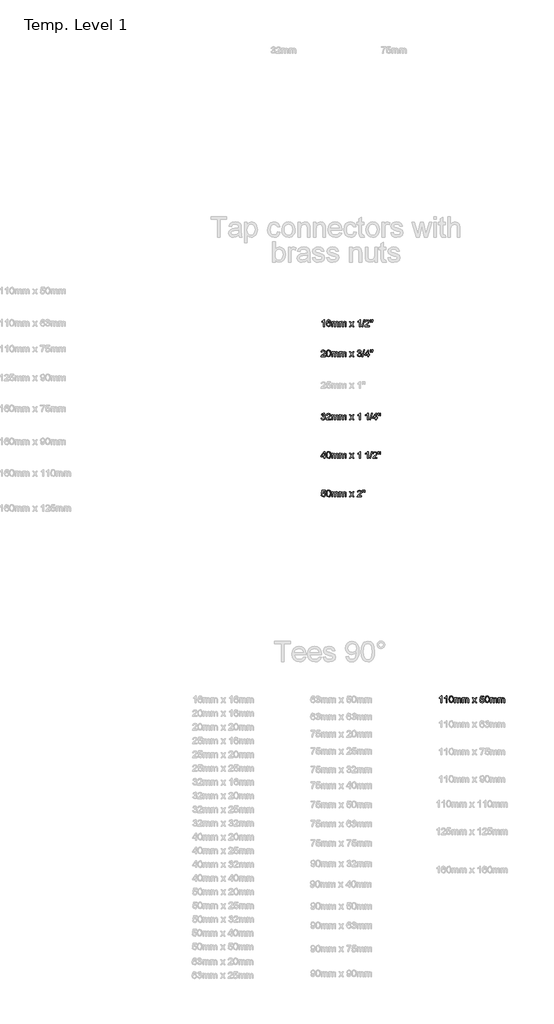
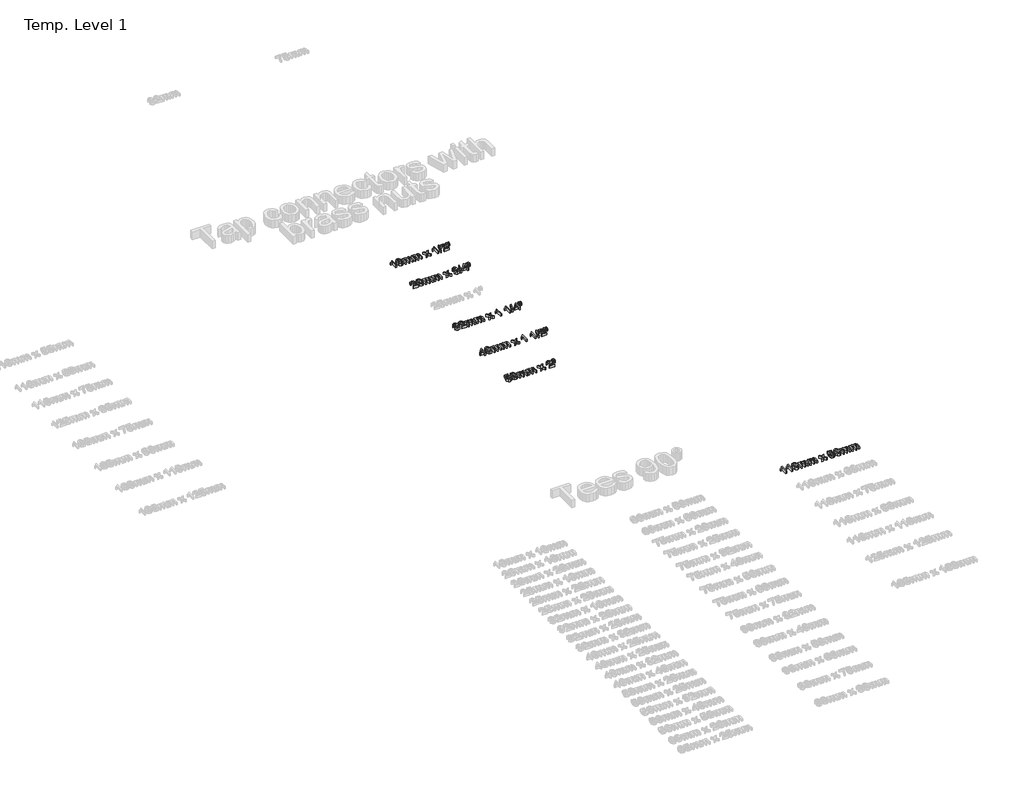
# One storey, part 49 of 62: 6 proxies.
"""IFC4 building model written with IfcOpenShell, lengths in millimetres."""

from ifc_helpers import new_model, si_unit, origin, origin_with_axes, place, context, project, spatial, polyline, outline, extrude, element, save

model = new_model("IFC4")

# Units and contexts
model_context = context("Model", 3, world=origin())
ifc_project = project(units=[si_unit("LENGTHUNIT", "METRE", prefix="MILLI")], contexts=[model_context])

# Site, building, storey
site = spatial("IfcSite", under=ifc_project)
building = spatial("IfcBuilding", under=site)
storey = spatial("IfcBuildingStorey", under=building, Name="Temp. Level 1", Elevation=0.0)

# Proxies
placement = place(None, origin())
element("IfcBuildingElementProxy", 1, Name="50mm Arial", ObjectType="50mm Arial", at=placement, inside=storey, context=model_context, shape_type="SweptSolid", body=[
    extrude(outline(polyline([(28231.5860907, -7369.5564984), (28225.4322446, -7369.5564984), (28225.4322446, -7331.1911138), (28219.6029177, -7335.3437581), (28213.1245523, -7338.4507292), (28213.1245523, -7332.6334215), (28222.144985, -7326.87621), (28227.6197446, -7320.3257292), (28231.5860907, -7320.3257292), (28231.5860907, -7369.5564984)])), origin_with_axes(), (0.0, 0.0, 1.0), 15.0),
    extrude(outline(polyline([(28269.2783984, -7369.5564984), (28263.1245523, -7369.5564984), (28263.1245523, -7331.1911138), (28257.2952253, -7335.3437581), (28250.81686, -7338.4507292), (28250.81686, -7332.6334215), (28259.8372927, -7326.87621), (28265.3120523, -7320.3257292), (28269.2783984, -7320.3257292), (28269.2783984, -7369.5564984)])), origin_with_axes(), (0.0, 0.0, 1.0), 15.0),
    extrude(outline(polyline([(28283.893783, -7345.3377484), (28285.7026773, -7331.173085), (28291.0752734, -7323.0060177), (28300.0476292, -7320.3257292), (28307.2351292, -7321.9122677), (28312.1990715, -7326.485585), (28315.0836869, -7333.7692388), (28316.2014753, -7345.3377484), (28314.41061, -7359.4423158), (28309.0560427, -7367.6274119), (28300.0476292, -7370.3257292), (28288.7976292, -7365.6382292), (28285.1197446, -7357.3119071), (28283.893783, -7345.3377484)]), holes=[polyline([(28290.0476292, -7345.3257292), (28292.9322446, -7360.6081811), (28300.0476292, -7364.1718831), (28307.1630138, -7360.5961619), (28310.0476292, -7345.3257292), (28307.2591677, -7330.2175561), (28299.9755138, -7326.4795754), (28293.0283984, -7329.7728446), (28290.0476292, -7345.3257292)])]), origin_with_axes(), (0.0, 0.0, 1.0), 15.0),
    extrude(outline(polyline([(28323.1245523, -7369.5564984), (28323.1245523, -7333.4026523), (28329.2783984, -7333.4026523), (28329.2783984, -7339.3521715), (28333.5091677, -7334.4783734), (28339.5308023, -7332.6334215), (28345.6966677, -7334.5144311), (28349.0860907, -7339.7848638), (28353.8877734, -7334.4212821), (28359.9514753, -7332.6334215), (28367.9983503, -7335.6081811), (28370.81686, -7344.7728446), (28370.81686, -7369.5564984), (28364.6630138, -7369.5564984), (28364.6630138, -7347.4170754), (28364.0921003, -7342.2788542), (28362.0247927, -7339.7488061), (28358.5091677, -7338.7872677), (28352.457485, -7341.25121), (28350.0476292, -7349.1478446), (28350.0476292, -7369.5564984), (28343.893783, -7369.5564984), (28343.893783, -7346.7319792), (28342.4695042, -7340.7704408), (28337.800033, -7338.7872677), (28333.2447446, -7340.1093831), (28330.2158984, -7343.9795754), (28329.2783984, -7351.3233254), (28329.2783984, -7369.5564984), (28323.1245523, -7369.5564984)])), origin_with_axes(), (0.0, 0.0, 1.0), 15.0),
    extrude(outline(polyline([(28380.0476292, -7369.5564984), (28380.0476292, -7333.4026523), (28386.2014753, -7333.4026523), (28386.2014753, -7339.3521715), (28390.4322446, -7334.4783734), (28396.4538792, -7332.6334215), (28402.6197446, -7334.5144311), (28406.0091677, -7339.7848638), (28410.8108503, -7334.4212821), (28416.8745523, -7332.6334215), (28424.9214273, -7335.6081811), (28427.7399369, -7344.7728446), (28427.7399369, -7369.5564984), (28421.5860907, -7369.5564984), (28421.5860907, -7347.4170754), (28421.0151773, -7342.2788542), (28418.9478696, -7339.7488061), (28415.4322446, -7338.7872677), (28409.3805619, -7341.25121), (28406.9707061, -7349.1478446), (28406.9707061, -7369.5564984), (28400.81686, -7369.5564984), (28400.81686, -7346.7319792), (28399.3925811, -7340.7704408), (28394.72311, -7338.7872677), (28390.1678215, -7340.1093831), (28387.1389753, -7343.9795754), (28386.2014753, -7351.3233254), (28386.2014753, -7369.5564984), (28380.0476292, -7369.5564984)])), origin_with_axes(), (0.0, 0.0, 1.0), 15.0),
    extrude(outline(polyline([(28452.3553215, -7369.5564984), (28465.50436, -7351.3834215), (28453.1245523, -7333.4026523), (28460.5283984, -7333.4026523), (28466.5019561, -7342.0564984), (28469.2904177, -7346.1430369), (28471.706283, -7342.8016908), (28478.5091677, -7333.4026523), (28485.9130138, -7333.4026523), (28472.9082061, -7351.3834215), (28485.4322446, -7369.5564984), (28478.0283984, -7369.5564984), (28470.4923407, -7358.6310177), (28469.1101292, -7356.6358254), (28459.7591677, -7369.5564984), (28452.3553215, -7369.5564984)])), origin_with_axes(), (0.0, 0.0, 1.0), 15.0),
    extrude(outline(polyline([(28508.5091677, -7356.4795754), (28514.6630138, -7355.7103446), (28517.7639753, -7362.0504888), (28524.1942638, -7364.1718831), (28531.91061, -7361.2211619), (28534.6630138, -7353.3906331), (28532.0848888, -7346.0829408), (28524.2904177, -7343.4026523), (28518.8877734, -7344.4723638), (28515.4322446, -7347.2488061), (28509.2783984, -7346.4795754), (28514.6630138, -7321.09496), (28538.5091677, -7321.09496), (28538.5091677, -7327.2488061), (28519.6389753, -7327.2488061), (28517.0067638, -7340.8064984), (28526.0091677, -7337.2488061), (28536.5320042, -7341.6598638), (28540.81686, -7353.0060177), (28536.9586869, -7364.4242869), (28531.4178215, -7368.8503686), (28524.1702253, -7370.3257292), (28513.3108503, -7366.5336619), (28508.5091677, -7356.4795754)])), origin_with_axes(), (0.0, 0.0, 1.0), 15.0),
    extrude(outline(polyline([(28546.2014753, -7345.3377484), (28548.0103696, -7331.173085), (28553.3829657, -7323.0060177), (28562.3553215, -7320.3257292), (28569.5428215, -7321.9122677), (28574.5067638, -7326.485585), (28577.3913792, -7333.7692388), (28578.5091677, -7345.3377484), (28576.7183023, -7359.4423158), (28571.363735, -7367.6274119), (28562.3553215, -7370.3257292), (28551.1053215, -7365.6382292), (28547.4274369, -7357.3119071), (28546.2014753, -7345.3377484)]), holes=[polyline([(28552.3553215, -7345.3257292), (28555.2399369, -7360.6081811), (28562.3553215, -7364.1718831), (28569.4707061, -7360.5961619), (28572.3553215, -7345.3257292), (28569.56686, -7330.2175561), (28562.2832061, -7326.4795754), (28555.3360907, -7329.7728446), (28552.3553215, -7345.3257292)])]), origin_with_axes(), (0.0, 0.0, 1.0), 15.0),
    extrude(outline(polyline([(28585.4322446, -7369.5564984), (28585.4322446, -7333.4026523), (28591.5860907, -7333.4026523), (28591.5860907, -7339.3521715), (28595.81686, -7334.4783734), (28601.8384946, -7332.6334215), (28608.00436, -7334.5144311), (28611.393783, -7339.7848638), (28616.1954657, -7334.4212821), (28622.2591677, -7332.6334215), (28630.3060427, -7335.6081811), (28633.1245523, -7344.7728446), (28633.1245523, -7369.5564984), (28626.9707061, -7369.5564984), (28626.9707061, -7347.4170754), (28626.3997927, -7342.2788542), (28624.332485, -7339.7488061), (28620.81686, -7338.7872677), (28614.7651773, -7341.25121), (28612.3553215, -7349.1478446), (28612.3553215, -7369.5564984), (28606.2014753, -7369.5564984), (28606.2014753, -7346.7319792), (28604.7771965, -7340.7704408), (28600.1077253, -7338.7872677), (28595.5524369, -7340.1093831), (28592.5235907, -7343.9795754), (28591.5860907, -7351.3233254), (28591.5860907, -7369.5564984), (28585.4322446, -7369.5564984)])), origin_with_axes(), (0.0, 0.0, 1.0), 15.0),
    extrude(outline(polyline([(28642.3553215, -7369.5564984), (28642.3553215, -7333.4026523), (28648.5091677, -7333.4026523), (28648.5091677, -7339.3521715), (28652.7399369, -7334.4783734), (28658.7615715, -7332.6334215), (28664.9274369, -7334.5144311), (28668.31686, -7339.7848638), (28673.1185427, -7334.4212821), (28679.1822446, -7332.6334215), (28687.2291196, -7335.6081811), (28690.0476292, -7344.7728446), (28690.0476292, -7369.5564984), (28683.893783, -7369.5564984), (28683.893783, -7347.4170754), (28683.3228696, -7342.2788542), (28681.2555619, -7339.7488061), (28677.7399369, -7338.7872677), (28671.6882542, -7341.25121), (28669.2783984, -7349.1478446), (28669.2783984, -7369.5564984), (28663.1245523, -7369.5564984), (28663.1245523, -7346.7319792), (28661.7002734, -7340.7704408), (28657.0308023, -7338.7872677), (28652.4755138, -7340.1093831), (28649.4466677, -7343.9795754), (28648.5091677, -7351.3233254), (28648.5091677, -7369.5564984), (28642.3553215, -7369.5564984)])), origin_with_axes(), (0.0, 0.0, 1.0), 15.0),
])
element("IfcBuildingElementProxy", 2, Name="50mm Arial", ObjectType="50mm Arial", at=placement, inside=storey, context=model_context, shape_type="SweptSolid", body=[
    extrude(outline(polyline([(27375.1698144, -4630.198517), (27369.0159683, -4630.198517), (27369.0159683, -4591.8331324), (27363.1866413, -4595.9857766), (27356.708276, -4599.0927478), (27356.708276, -4593.2754401), (27365.7287086, -4587.5182286), (27371.2034683, -4580.9677478), (27375.1698144, -4580.9677478), (27375.1698144, -4630.198517)])), origin_with_axes(), (0.0, 0.0, 1.0), 15.0),
    extrude(outline(polyline([(27421.3236606, -4594.0446709), (27415.1698144, -4594.8139016), (27412.8380836, -4589.6816901), (27406.6722183, -4587.1215939), (27401.1193336, -4588.6119786), (27396.9186125, -4594.2069305), (27395.1698144, -4605.1744786), (27400.5964971, -4600.2646228), (27407.3212567, -4598.6600555), (27417.7779875, -4603.0470747), (27422.0928913, -4614.3812093), (27420.0616413, -4622.8727959), (27414.472699, -4628.8824112), (27406.4077952, -4630.9677478), (27393.8657279, -4625.4389016), (27390.2284082, -4618.1191901), (27389.0159683, -4607.2177478), (27390.3621221, -4594.9611372), (27394.4005836, -4586.5807286), (27399.9144058, -4582.370993), (27407.0568336, -4580.9677478), (27416.7803913, -4584.4413055), (27421.3236606, -4594.0446709)]), holes=[polyline([(27395.1698144, -4614.2850555), (27396.5940933, -4619.6155843), (27400.380151, -4623.4857766), (27405.927026, -4624.8139016), (27413.1806317, -4622.0614978), (27415.9390452, -4614.5855362), (27413.2166894, -4607.4280843), (27405.6746221, -4604.8139016), (27398.2287086, -4607.4280843), (27395.1698144, -4614.2850555)])]), origin_with_axes(), (0.0, 0.0, 1.0), 15.0),
    extrude(outline(polyline([(27429.0159683, -4630.198517), (27429.0159683, -4594.0446709), (27435.1698144, -4594.0446709), (27435.1698144, -4599.9941901), (27439.4005836, -4595.120392), (27445.4222183, -4593.2754401), (27451.5880836, -4595.1564497), (27454.9775067, -4600.4268824), (27459.7791894, -4595.0633007), (27465.8428913, -4593.2754401), (27473.8897663, -4596.2501997), (27476.708276, -4605.4148632), (27476.708276, -4630.198517), (27470.5544298, -4630.198517), (27470.5544298, -4608.0590939), (27469.9835163, -4602.9208728), (27467.9162086, -4600.3908247), (27464.4005836, -4599.4292862), (27458.348901, -4601.8932286), (27455.9390452, -4609.7898632), (27455.9390452, -4630.198517), (27449.785199, -4630.198517), (27449.785199, -4607.3739978), (27448.3609202, -4601.4124593), (27443.691449, -4599.4292862), (27439.1361606, -4600.7514016), (27436.1073144, -4604.6215939), (27435.1698144, -4611.9653439), (27435.1698144, -4630.198517), (27429.0159683, -4630.198517)])), origin_with_axes(), (0.0, 0.0, 1.0), 15.0),
    extrude(outline(polyline([(27485.9390452, -4630.198517), (27485.9390452, -4594.0446709), (27492.0928913, -4594.0446709), (27492.0928913, -4599.9941901), (27496.3236606, -4595.120392), (27502.3452952, -4593.2754401), (27508.5111606, -4595.1564497), (27511.9005836, -4600.4268824), (27516.7022663, -4595.0633007), (27522.7659683, -4593.2754401), (27530.8128433, -4596.2501997), (27533.6313529, -4605.4148632), (27533.6313529, -4630.198517), (27527.4775067, -4630.198517), (27527.4775067, -4608.0590939), (27526.9065933, -4602.9208728), (27524.8392856, -4600.3908247), (27521.3236606, -4599.4292862), (27515.2719779, -4601.8932286), (27512.8621221, -4609.7898632), (27512.8621221, -4630.198517), (27506.708276, -4630.198517), (27506.708276, -4607.3739978), (27505.2839971, -4601.4124593), (27500.614526, -4599.4292862), (27496.0592375, -4600.7514016), (27493.0303913, -4604.6215939), (27492.0928913, -4611.9653439), (27492.0928913, -4630.198517), (27485.9390452, -4630.198517)])), origin_with_axes(), (0.0, 0.0, 1.0), 15.0),
    extrude(outline(polyline([(27558.2467375, -4630.198517), (27571.395776, -4612.0254401), (27559.0159683, -4594.0446709), (27566.4198144, -4594.0446709), (27572.3933721, -4602.698517), (27575.1818336, -4606.7850555), (27577.597699, -4603.4437093), (27584.4005836, -4594.0446709), (27591.8044298, -4594.0446709), (27578.7996221, -4612.0254401), (27591.3236606, -4630.198517), (27583.9198144, -4630.198517), (27576.3837567, -4619.2730362), (27575.0015452, -4617.2778439), (27565.6505836, -4630.198517), (27558.2467375, -4630.198517)])), origin_with_axes(), (0.0, 0.0, 1.0), 15.0),
    extrude(outline(polyline([(27637.4775067, -4630.198517), (27631.3236606, -4630.198517), (27631.3236606, -4591.8331324), (27625.4943336, -4595.9857766), (27619.0159683, -4599.0927478), (27619.0159683, -4593.2754401), (27628.036401, -4587.5182286), (27633.5111606, -4580.9677478), (27637.4775067, -4580.9677478), (27637.4775067, -4630.198517)])), origin_with_axes(), (0.0, 0.0, 1.0), 15.0),
    extrude(outline(polyline([(27649.0159683, -4630.198517), (27662.8621221, -4580.9677478), (27668.4150067, -4580.9677478), (27654.5688529, -4630.198517), (27649.0159683, -4630.198517)])), origin_with_axes(), (0.0, 0.0, 1.0), 15.0),
    extrude(outline(polyline([(27702.8621221, -4624.0446709), (27702.8621221, -4630.198517), (27670.5544298, -4630.198517), (27671.2154875, -4625.9557286), (27674.9534683, -4619.4232766), (27682.6577952, -4612.2898632), (27693.2827952, -4602.0374593), (27695.9390452, -4595.0663055), (27693.4330356, -4589.4232766), (27686.8885644, -4587.1215939), (27680.067651, -4589.3691901), (27677.4775067, -4595.5831324), (27671.3236606, -4594.8139016), (27676.0412086, -4584.5134209), (27687.020776, -4580.9677478), (27698.036401, -4584.9100555), (27702.0928913, -4594.6937093), (27700.9991413, -4600.5290459), (27697.363324, -4606.5626997), (27688.5472183, -4614.9941901), (27681.4678913, -4620.9136612), (27678.691449, -4624.0446709), (27702.8621221, -4624.0446709)])), origin_with_axes(), (0.0, 0.0, 1.0), 15.0),
    extrude(outline(polyline([(27722.7900067, -4598.6600555), (27721.3236606, -4589.1528439), (27721.3236606, -4580.9677478), (27727.4775067, -4580.9677478), (27727.4775067, -4589.1528439), (27726.035199, -4598.6600555), (27722.7900067, -4598.6600555)])), origin_with_axes(), (0.0, 0.0, 1.0), 15.0),
    extrude(outline(polyline([(27710.5183721, -4598.6600555), (27709.0159683, -4589.1528439), (27709.0159683, -4580.9677478), (27715.1698144, -4580.9677478), (27715.1698144, -4589.1528439), (27713.8236606, -4598.6600555), (27710.5183721, -4598.6600555)])), origin_with_axes(), (0.0, 0.0, 1.0), 15.0),
])
element("IfcBuildingElementProxy", 3, Name="50mm Arial", ObjectType="50mm Arial", at=placement, inside=storey, context=model_context, shape_type="SweptSolid", body=[
    extrude(outline(polyline([(27383.6313529, -4844.0446709), (27383.6313529, -4850.198517), (27351.3236606, -4850.198517), (27351.9847183, -4845.9557286), (27355.722699, -4839.4232766), (27363.427026, -4832.2898632), (27374.052026, -4822.0374593), (27376.708276, -4815.0663055), (27374.2022663, -4809.4232766), (27367.6577952, -4807.1215939), (27360.8368817, -4809.3691901), (27358.2467375, -4815.5831324), (27352.0928913, -4814.8139016), (27356.8104394, -4804.5134209), (27367.7900067, -4800.9677478), (27378.8056317, -4804.9100555), (27382.8621221, -4814.6937093), (27381.7683721, -4820.5290459), (27378.1325548, -4826.5626997), (27369.316449, -4834.9941901), (27362.2371221, -4840.9136612), (27359.4606798, -4844.0446709), (27383.6313529, -4844.0446709)])), origin_with_axes(), (0.0, 0.0, 1.0), 15.0),
    extrude(outline(polyline([(27389.785199, -4825.979767), (27391.5940933, -4811.8151036), (27396.9666894, -4803.6480362), (27405.9390452, -4800.9677478), (27413.1265452, -4802.5542862), (27418.0904875, -4807.1276036), (27420.9751029, -4814.4112574), (27422.0928913, -4825.979767), (27420.302026, -4840.0843343), (27414.9474586, -4848.2694305), (27405.9390452, -4850.9677478), (27394.6890452, -4846.2802478), (27391.0111606, -4837.9539257), (27389.785199, -4825.979767)]), holes=[polyline([(27395.9390452, -4825.9677478), (27398.8236606, -4841.2501997), (27405.9390452, -4844.8139016), (27413.0544298, -4841.2381805), (27415.9390452, -4825.9677478), (27413.1505836, -4810.8595747), (27405.8669298, -4807.1215939), (27398.9198144, -4810.4148632), (27395.9390452, -4825.9677478)])]), origin_with_axes(), (0.0, 0.0, 1.0), 15.0),
    extrude(outline(polyline([(27429.0159683, -4850.198517), (27429.0159683, -4814.0446709), (27435.1698144, -4814.0446709), (27435.1698144, -4819.9941901), (27439.4005836, -4815.120392), (27445.4222183, -4813.2754401), (27451.5880836, -4815.1564497), (27454.9775067, -4820.4268824), (27459.7791894, -4815.0633007), (27465.8428913, -4813.2754401), (27473.8897663, -4816.2501997), (27476.708276, -4825.4148632), (27476.708276, -4850.198517), (27470.5544298, -4850.198517), (27470.5544298, -4828.0590939), (27469.9835163, -4822.9208728), (27467.9162086, -4820.3908247), (27464.4005836, -4819.4292862), (27458.348901, -4821.8932286), (27455.9390452, -4829.7898632), (27455.9390452, -4850.198517), (27449.785199, -4850.198517), (27449.785199, -4827.3739978), (27448.3609202, -4821.4124593), (27443.691449, -4819.4292862), (27439.1361606, -4820.7514016), (27436.1073144, -4824.6215939), (27435.1698144, -4831.9653439), (27435.1698144, -4850.198517), (27429.0159683, -4850.198517)])), origin_with_axes(), (0.0, 0.0, 1.0), 15.0),
    extrude(outline(polyline([(27485.9390452, -4850.198517), (27485.9390452, -4814.0446709), (27492.0928913, -4814.0446709), (27492.0928913, -4819.9941901), (27496.3236606, -4815.120392), (27502.3452952, -4813.2754401), (27508.5111606, -4815.1564497), (27511.9005836, -4820.4268824), (27516.7022663, -4815.0633007), (27522.7659683, -4813.2754401), (27530.8128433, -4816.2501997), (27533.6313529, -4825.4148632), (27533.6313529, -4850.198517), (27527.4775067, -4850.198517), (27527.4775067, -4828.0590939), (27526.9065933, -4822.9208728), (27524.8392856, -4820.3908247), (27521.3236606, -4819.4292862), (27515.2719779, -4821.8932286), (27512.8621221, -4829.7898632), (27512.8621221, -4850.198517), (27506.708276, -4850.198517), (27506.708276, -4827.3739978), (27505.2839971, -4821.4124593), (27500.614526, -4819.4292862), (27496.0592375, -4820.7514016), (27493.0303913, -4824.6215939), (27492.0928913, -4831.9653439), (27492.0928913, -4850.198517), (27485.9390452, -4850.198517)])), origin_with_axes(), (0.0, 0.0, 1.0), 15.0),
    extrude(outline(polyline([(27558.2467375, -4850.198517), (27571.395776, -4832.0254401), (27559.0159683, -4814.0446709), (27566.4198144, -4814.0446709), (27572.3933721, -4822.698517), (27575.1818336, -4826.7850555), (27577.597699, -4823.4437093), (27584.4005836, -4814.0446709), (27591.8044298, -4814.0446709), (27578.7996221, -4832.0254401), (27591.3236606, -4850.198517), (27583.9198144, -4850.198517), (27576.3837567, -4839.2730362), (27575.0015452, -4837.2778439), (27565.6505836, -4850.198517), (27558.2467375, -4850.198517)])), origin_with_axes(), (0.0, 0.0, 1.0), 15.0),
    extrude(outline(polyline([(27614.4005836, -4837.1215939), (27620.5544298, -4836.3523632), (27623.9498625, -4842.8307286), (27630.302026, -4844.8139016), (27637.7779875, -4842.0855362), (27640.5544298, -4835.3307286), (27637.802026, -4828.9665459), (27630.8068336, -4826.448517), (27626.4919298, -4827.1215939), (27627.177026, -4820.9677478), (27635.145776, -4819.2730362), (27638.2467375, -4813.8403439), (27635.9991413, -4809.026642), (27630.2058721, -4807.1215939), (27624.3404875, -4809.0446709), (27621.3236606, -4814.8139016), (27615.1698144, -4814.0446709), (27620.2058721, -4804.3932286), (27629.989526, -4800.9677478), (27637.411401, -4802.6564497), (27642.6037086, -4807.2718343), (27644.4005836, -4813.479767), (27642.6938529, -4819.1528439), (27637.645776, -4823.2273632), (27644.3525067, -4827.4340939), (27646.708276, -4835.4389016), (27641.9967375, -4846.448517), (27630.0856798, -4850.9677478), (27619.2924106, -4847.1095747), (27614.4005836, -4837.1215939)])), origin_with_axes(), (0.0, 0.0, 1.0), 15.0),
    extrude(outline(polyline([(27649.0159683, -4850.198517), (27662.8621221, -4800.9677478), (27668.4150067, -4800.9677478), (27654.5688529, -4850.198517), (27649.0159683, -4850.198517)])), origin_with_axes(), (0.0, 0.0, 1.0), 15.0),
    extrude(outline(polyline([(27691.3236606, -4850.198517), (27691.3236606, -4838.6600555), (27669.0159683, -4838.6600555), (27669.0159683, -4832.5062093), (27692.8621221, -4801.7369786), (27697.4775067, -4801.7369786), (27697.4775067, -4832.5062093), (27703.6313529, -4832.5062093), (27703.6313529, -4838.6600555), (27697.4775067, -4838.6600555), (27697.4775067, -4850.198517), (27691.3236606, -4850.198517)]), holes=[polyline([(27691.3236606, -4832.5062093), (27691.3236606, -4813.4917862), (27676.5880836, -4832.5062093), (27691.3236606, -4832.5062093)])]), origin_with_axes(), (0.0, 0.0, 1.0), 15.0),
    extrude(outline(polyline([(27722.7900067, -4818.6600555), (27721.3236606, -4809.1528439), (27721.3236606, -4800.9677478), (27727.4775067, -4800.9677478), (27727.4775067, -4809.1528439), (27726.035199, -4818.6600555), (27722.7900067, -4818.6600555)])), origin_with_axes(), (0.0, 0.0, 1.0), 15.0),
    extrude(outline(polyline([(27710.5183721, -4818.6600555), (27709.0159683, -4809.1528439), (27709.0159683, -4800.9677478), (27715.1698144, -4800.9677478), (27715.1698144, -4809.1528439), (27713.8236606, -4818.6600555), (27710.5183721, -4818.6600555)])), origin_with_axes(), (0.0, 0.0, 1.0), 15.0),
])
element("IfcBuildingElementProxy", 4, Name="50mm Arial", ObjectType="50mm Arial", at=placement, inside=storey, context=model_context, shape_type="SweptSolid", body=[
    extrude(outline(polyline([(27352.0928913, -5297.1215939), (27358.2467375, -5296.3523632), (27361.6421702, -5302.8307286), (27367.9943336, -5304.8139016), (27375.4702952, -5302.0855362), (27378.2467375, -5295.3307286), (27375.4943336, -5288.9665459), (27368.4991413, -5286.448517), (27364.1842375, -5287.1215939), (27364.8693336, -5280.9677478), (27372.8380836, -5279.2730362), (27375.9390452, -5273.8403439), (27373.691449, -5269.026642), (27367.8981798, -5267.1215939), (27362.0327952, -5269.0446709), (27359.0159683, -5274.8139016), (27352.8621221, -5274.0446709), (27357.8981798, -5264.3932286), (27367.6818336, -5260.9677478), (27375.1037086, -5262.6564497), (27380.2960163, -5267.2718343), (27382.0928913, -5273.479767), (27380.3861606, -5279.1528439), (27375.3380836, -5283.2273632), (27382.0448144, -5287.4340939), (27384.4005836, -5295.4389016), (27379.6890452, -5306.448517), (27367.7779875, -5310.9677478), (27356.9847183, -5307.1095747), (27352.0928913, -5297.1215939)])), origin_with_axes(), (0.0, 0.0, 1.0), 15.0),
    extrude(outline(polyline([(27421.3236606, -5304.0446709), (27421.3236606, -5310.198517), (27389.0159683, -5310.198517), (27389.677026, -5305.9557286), (27393.4150067, -5299.4232766), (27401.1193336, -5292.2898632), (27411.7443336, -5282.0374593), (27414.4005836, -5275.0663055), (27411.894574, -5269.4232766), (27405.3501029, -5267.1215939), (27398.5291894, -5269.3691901), (27395.9390452, -5275.5831324), (27389.785199, -5274.8139016), (27394.5027471, -5264.5134209), (27405.4823144, -5260.9677478), (27416.4979394, -5264.9100555), (27420.5544298, -5274.6937093), (27419.4606798, -5280.5290459), (27415.8248625, -5286.5626997), (27407.0087567, -5294.9941901), (27399.9294298, -5300.9136612), (27397.1529875, -5304.0446709), (27421.3236606, -5304.0446709)])), origin_with_axes(), (0.0, 0.0, 1.0), 15.0),
    extrude(outline(polyline([(27429.0159683, -5310.198517), (27429.0159683, -5274.0446709), (27435.1698144, -5274.0446709), (27435.1698144, -5279.9941901), (27439.4005836, -5275.120392), (27445.4222183, -5273.2754401), (27451.5880836, -5275.1564497), (27454.9775067, -5280.4268824), (27459.7791894, -5275.0633007), (27465.8428913, -5273.2754401), (27473.8897663, -5276.2501997), (27476.708276, -5285.4148632), (27476.708276, -5310.198517), (27470.5544298, -5310.198517), (27470.5544298, -5288.0590939), (27469.9835163, -5282.9208728), (27467.9162086, -5280.3908247), (27464.4005836, -5279.4292862), (27458.348901, -5281.8932286), (27455.9390452, -5289.7898632), (27455.9390452, -5310.198517), (27449.785199, -5310.198517), (27449.785199, -5287.3739978), (27448.3609202, -5281.4124593), (27443.691449, -5279.4292862), (27439.1361606, -5280.7514016), (27436.1073144, -5284.6215939), (27435.1698144, -5291.9653439), (27435.1698144, -5310.198517), (27429.0159683, -5310.198517)])), origin_with_axes(), (0.0, 0.0, 1.0), 15.0),
    extrude(outline(polyline([(27485.9390452, -5310.198517), (27485.9390452, -5274.0446709), (27492.0928913, -5274.0446709), (27492.0928913, -5279.9941901), (27496.3236606, -5275.120392), (27502.3452952, -5273.2754401), (27508.5111606, -5275.1564497), (27511.9005836, -5280.4268824), (27516.7022663, -5275.0633007), (27522.7659683, -5273.2754401), (27530.8128433, -5276.2501997), (27533.6313529, -5285.4148632), (27533.6313529, -5310.198517), (27527.4775067, -5310.198517), (27527.4775067, -5288.0590939), (27526.9065933, -5282.9208728), (27524.8392856, -5280.3908247), (27521.3236606, -5279.4292862), (27515.2719779, -5281.8932286), (27512.8621221, -5289.7898632), (27512.8621221, -5310.198517), (27506.708276, -5310.198517), (27506.708276, -5287.3739978), (27505.2839971, -5281.4124593), (27500.614526, -5279.4292862), (27496.0592375, -5280.7514016), (27493.0303913, -5284.6215939), (27492.0928913, -5291.9653439), (27492.0928913, -5310.198517), (27485.9390452, -5310.198517)])), origin_with_axes(), (0.0, 0.0, 1.0), 15.0),
    extrude(outline(polyline([(27558.2467375, -5310.198517), (27571.395776, -5292.0254401), (27559.0159683, -5274.0446709), (27566.4198144, -5274.0446709), (27572.3933721, -5282.698517), (27575.1818336, -5286.7850555), (27577.597699, -5283.4437093), (27584.4005836, -5274.0446709), (27591.8044298, -5274.0446709), (27578.7996221, -5292.0254401), (27591.3236606, -5310.198517), (27583.9198144, -5310.198517), (27576.3837567, -5299.2730362), (27575.0015452, -5297.2778439), (27565.6505836, -5310.198517), (27558.2467375, -5310.198517)])), origin_with_axes(), (0.0, 0.0, 1.0), 15.0),
    extrude(outline(polyline([(27637.4775067, -5310.198517), (27631.3236606, -5310.198517), (27631.3236606, -5271.8331324), (27625.4943336, -5275.9857766), (27619.0159683, -5279.0927478), (27619.0159683, -5273.2754401), (27628.036401, -5267.5182286), (27633.5111606, -5260.9677478), (27637.4775067, -5260.9677478), (27637.4775067, -5310.198517)])), origin_with_axes(), (0.0, 0.0, 1.0), 15.0),
    extrude(outline(polyline([(27694.4005836, -5310.198517), (27688.2467375, -5310.198517), (27688.2467375, -5271.8331324), (27682.4174106, -5275.9857766), (27675.9390452, -5279.0927478), (27675.9390452, -5273.2754401), (27684.9594779, -5267.5182286), (27690.4342375, -5260.9677478), (27694.4005836, -5260.9677478), (27694.4005836, -5310.198517)])), origin_with_axes(), (0.0, 0.0, 1.0), 15.0),
    extrude(outline(polyline([(27705.9390452, -5310.198517), (27719.785199, -5260.9677478), (27725.3380836, -5260.9677478), (27711.4919298, -5310.198517), (27705.9390452, -5310.198517)])), origin_with_axes(), (0.0, 0.0, 1.0), 15.0),
    extrude(outline(polyline([(27748.2467375, -5310.198517), (27748.2467375, -5298.6600555), (27725.9390452, -5298.6600555), (27725.9390452, -5292.5062093), (27749.785199, -5261.7369786), (27754.4005836, -5261.7369786), (27754.4005836, -5292.5062093), (27760.5544298, -5292.5062093), (27760.5544298, -5298.6600555), (27754.4005836, -5298.6600555), (27754.4005836, -5310.198517), (27748.2467375, -5310.198517)]), holes=[polyline([(27748.2467375, -5292.5062093), (27748.2467375, -5273.4917862), (27733.5111606, -5292.5062093), (27748.2467375, -5292.5062093)])]), origin_with_axes(), (0.0, 0.0, 1.0), 15.0),
    extrude(outline(polyline([(27779.7130836, -5278.6600555), (27778.2467375, -5269.1528439), (27778.2467375, -5260.9677478), (27784.4005836, -5260.9677478), (27784.4005836, -5269.1528439), (27782.958276, -5278.6600555), (27779.7130836, -5278.6600555)])), origin_with_axes(), (0.0, 0.0, 1.0), 15.0),
    extrude(outline(polyline([(27767.441449, -5278.6600555), (27765.9390452, -5269.1528439), (27765.9390452, -5260.9677478), (27772.0928913, -5260.9677478), (27772.0928913, -5269.1528439), (27770.7467375, -5278.6600555), (27767.441449, -5278.6600555)])), origin_with_axes(), (0.0, 0.0, 1.0), 15.0),
])
element("IfcBuildingElementProxy", 5, Name="50mm Arial", ObjectType="50mm Arial", at=placement, inside=storey, context=model_context, shape_type="SweptSolid", body=[
    extrude(outline(polyline([(27372.0928913, -5590.198517), (27372.0928913, -5578.6600555), (27349.785199, -5578.6600555), (27349.785199, -5572.5062093), (27373.6313529, -5541.7369786), (27378.2467375, -5541.7369786), (27378.2467375, -5572.5062093), (27384.4005836, -5572.5062093), (27384.4005836, -5578.6600555), (27378.2467375, -5578.6600555), (27378.2467375, -5590.198517), (27372.0928913, -5590.198517)]), holes=[polyline([(27372.0928913, -5572.5062093), (27372.0928913, -5553.4917862), (27357.3573144, -5572.5062093), (27372.0928913, -5572.5062093)])]), origin_with_axes(), (0.0, 0.0, 1.0), 15.0),
    extrude(outline(polyline([(27389.785199, -5565.979767), (27391.5940933, -5551.8151036), (27396.9666894, -5543.6480362), (27405.9390452, -5540.9677478), (27413.1265452, -5542.5542862), (27418.0904875, -5547.1276036), (27420.9751029, -5554.4112574), (27422.0928913, -5565.979767), (27420.302026, -5580.0843343), (27414.9474586, -5588.2694305), (27405.9390452, -5590.9677478), (27394.6890452, -5586.2802478), (27391.0111606, -5577.9539257), (27389.785199, -5565.979767)]), holes=[polyline([(27395.9390452, -5565.9677478), (27398.8236606, -5581.2501997), (27405.9390452, -5584.8139016), (27413.0544298, -5581.2381805), (27415.9390452, -5565.9677478), (27413.1505836, -5550.8595747), (27405.8669298, -5547.1215939), (27398.9198144, -5550.4148632), (27395.9390452, -5565.9677478)])]), origin_with_axes(), (0.0, 0.0, 1.0), 15.0),
    extrude(outline(polyline([(27429.0159683, -5590.198517), (27429.0159683, -5554.0446709), (27435.1698144, -5554.0446709), (27435.1698144, -5559.9941901), (27439.4005836, -5555.120392), (27445.4222183, -5553.2754401), (27451.5880836, -5555.1564497), (27454.9775067, -5560.4268824), (27459.7791894, -5555.0633007), (27465.8428913, -5553.2754401), (27473.8897663, -5556.2501997), (27476.708276, -5565.4148632), (27476.708276, -5590.198517), (27470.5544298, -5590.198517), (27470.5544298, -5568.0590939), (27469.9835163, -5562.9208728), (27467.9162086, -5560.3908247), (27464.4005836, -5559.4292862), (27458.348901, -5561.8932286), (27455.9390452, -5569.7898632), (27455.9390452, -5590.198517), (27449.785199, -5590.198517), (27449.785199, -5567.3739978), (27448.3609202, -5561.4124593), (27443.691449, -5559.4292862), (27439.1361606, -5560.7514016), (27436.1073144, -5564.6215939), (27435.1698144, -5571.9653439), (27435.1698144, -5590.198517), (27429.0159683, -5590.198517)])), origin_with_axes(), (0.0, 0.0, 1.0), 15.0),
    extrude(outline(polyline([(27485.9390452, -5590.198517), (27485.9390452, -5554.0446709), (27492.0928913, -5554.0446709), (27492.0928913, -5559.9941901), (27496.3236606, -5555.120392), (27502.3452952, -5553.2754401), (27508.5111606, -5555.1564497), (27511.9005836, -5560.4268824), (27516.7022663, -5555.0633007), (27522.7659683, -5553.2754401), (27530.8128433, -5556.2501997), (27533.6313529, -5565.4148632), (27533.6313529, -5590.198517), (27527.4775067, -5590.198517), (27527.4775067, -5568.0590939), (27526.9065933, -5562.9208728), (27524.8392856, -5560.3908247), (27521.3236606, -5559.4292862), (27515.2719779, -5561.8932286), (27512.8621221, -5569.7898632), (27512.8621221, -5590.198517), (27506.708276, -5590.198517), (27506.708276, -5567.3739978), (27505.2839971, -5561.4124593), (27500.614526, -5559.4292862), (27496.0592375, -5560.7514016), (27493.0303913, -5564.6215939), (27492.0928913, -5571.9653439), (27492.0928913, -5590.198517), (27485.9390452, -5590.198517)])), origin_with_axes(), (0.0, 0.0, 1.0), 15.0),
    extrude(outline(polyline([(27558.2467375, -5590.198517), (27571.395776, -5572.0254401), (27559.0159683, -5554.0446709), (27566.4198144, -5554.0446709), (27572.3933721, -5562.698517), (27575.1818336, -5566.7850555), (27577.597699, -5563.4437093), (27584.4005836, -5554.0446709), (27591.8044298, -5554.0446709), (27578.7996221, -5572.0254401), (27591.3236606, -5590.198517), (27583.9198144, -5590.198517), (27576.3837567, -5579.2730362), (27575.0015452, -5577.2778439), (27565.6505836, -5590.198517), (27558.2467375, -5590.198517)])), origin_with_axes(), (0.0, 0.0, 1.0), 15.0),
    extrude(outline(polyline([(27637.4775067, -5590.198517), (27631.3236606, -5590.198517), (27631.3236606, -5551.8331324), (27625.4943336, -5555.9857766), (27619.0159683, -5559.0927478), (27619.0159683, -5553.2754401), (27628.036401, -5547.5182286), (27633.5111606, -5540.9677478), (27637.4775067, -5540.9677478), (27637.4775067, -5590.198517)])), origin_with_axes(), (0.0, 0.0, 1.0), 15.0),
    extrude(outline(polyline([(27694.4005836, -5590.198517), (27688.2467375, -5590.198517), (27688.2467375, -5551.8331324), (27682.4174106, -5555.9857766), (27675.9390452, -5559.0927478), (27675.9390452, -5553.2754401), (27684.9594779, -5547.5182286), (27690.4342375, -5540.9677478), (27694.4005836, -5540.9677478), (27694.4005836, -5590.198517)])), origin_with_axes(), (0.0, 0.0, 1.0), 15.0),
    extrude(outline(polyline([(27705.9390452, -5590.198517), (27719.785199, -5540.9677478), (27725.3380836, -5540.9677478), (27711.4919298, -5590.198517), (27705.9390452, -5590.198517)])), origin_with_axes(), (0.0, 0.0, 1.0), 15.0),
    extrude(outline(polyline([(27759.785199, -5584.0446709), (27759.785199, -5590.198517), (27727.4775067, -5590.198517), (27728.1385644, -5585.9557286), (27731.8765452, -5579.4232766), (27739.5808721, -5572.2898632), (27750.2058721, -5562.0374593), (27752.8621221, -5555.0663055), (27750.3561125, -5549.4232766), (27743.8116413, -5547.1215939), (27736.9907279, -5549.3691901), (27734.4005836, -5555.5831324), (27728.2467375, -5554.8139016), (27732.9642856, -5544.5134209), (27743.9438529, -5540.9677478), (27754.9594779, -5544.9100555), (27759.0159683, -5554.6937093), (27757.9222183, -5560.5290459), (27754.286401, -5566.5626997), (27745.4702952, -5574.9941901), (27738.3909683, -5580.9136612), (27735.614526, -5584.0446709), (27759.785199, -5584.0446709)])), origin_with_axes(), (0.0, 0.0, 1.0), 15.0),
    extrude(outline(polyline([(27779.7130836, -5558.6600555), (27778.2467375, -5549.1528439), (27778.2467375, -5540.9677478), (27784.4005836, -5540.9677478), (27784.4005836, -5549.1528439), (27782.958276, -5558.6600555), (27779.7130836, -5558.6600555)])), origin_with_axes(), (0.0, 0.0, 1.0), 15.0),
    extrude(outline(polyline([(27767.441449, -5558.6600555), (27765.9390452, -5549.1528439), (27765.9390452, -5540.9677478), (27772.0928913, -5540.9677478), (27772.0928913, -5549.1528439), (27770.7467375, -5558.6600555), (27767.441449, -5558.6600555)])), origin_with_axes(), (0.0, 0.0, 1.0), 15.0),
])
element("IfcBuildingElementProxy", 6, Name="50mm Arial", ObjectType="50mm Arial", at=placement, inside=storey, context=model_context, shape_type="SweptSolid", body=[
    extrude(outline(polyline([(27352.0928913, -5857.1215939), (27358.2467375, -5856.3523632), (27361.347699, -5862.6925074), (27367.7779875, -5864.8139016), (27375.4943336, -5861.8631805), (27378.2467375, -5854.0326516), (27375.6686125, -5846.7249593), (27367.8741413, -5844.0446709), (27362.4714971, -5845.1143824), (27359.0159683, -5847.8908247), (27352.8621221, -5847.1215939), (27358.2467375, -5821.7369786), (27382.0928913, -5821.7369786), (27382.0928913, -5827.8908247), (27363.222699, -5827.8908247), (27360.5904875, -5841.448517), (27369.5928913, -5837.8908247), (27380.1157279, -5842.3018824), (27384.4005836, -5853.6480362), (27380.5424106, -5865.0663055), (27375.0015452, -5869.4923872), (27367.753949, -5870.9677478), (27356.894574, -5867.1756805), (27352.0928913, -5857.1215939)])), origin_with_axes(), (0.0, 0.0, 1.0), 15.0),
    extrude(outline(polyline([(27389.785199, -5845.979767), (27391.5940933, -5831.8151036), (27396.9666894, -5823.6480362), (27405.9390452, -5820.9677478), (27413.1265452, -5822.5542862), (27418.0904875, -5827.1276036), (27420.9751029, -5834.4112574), (27422.0928913, -5845.979767), (27420.302026, -5860.0843343), (27414.9474586, -5868.2694305), (27405.9390452, -5870.9677478), (27394.6890452, -5866.2802478), (27391.0111606, -5857.9539257), (27389.785199, -5845.979767)]), holes=[polyline([(27395.9390452, -5845.9677478), (27398.8236606, -5861.2501997), (27405.9390452, -5864.8139016), (27413.0544298, -5861.2381805), (27415.9390452, -5845.9677478), (27413.1505836, -5830.8595747), (27405.8669298, -5827.1215939), (27398.9198144, -5830.4148632), (27395.9390452, -5845.9677478)])]), origin_with_axes(), (0.0, 0.0, 1.0), 15.0),
    extrude(outline(polyline([(27429.0159683, -5870.198517), (27429.0159683, -5834.0446709), (27435.1698144, -5834.0446709), (27435.1698144, -5839.9941901), (27439.4005836, -5835.120392), (27445.4222183, -5833.2754401), (27451.5880836, -5835.1564497), (27454.9775067, -5840.4268824), (27459.7791894, -5835.0633007), (27465.8428913, -5833.2754401), (27473.8897663, -5836.2501997), (27476.708276, -5845.4148632), (27476.708276, -5870.198517), (27470.5544298, -5870.198517), (27470.5544298, -5848.0590939), (27469.9835163, -5842.9208728), (27467.9162086, -5840.3908247), (27464.4005836, -5839.4292862), (27458.348901, -5841.8932286), (27455.9390452, -5849.7898632), (27455.9390452, -5870.198517), (27449.785199, -5870.198517), (27449.785199, -5847.3739978), (27448.3609202, -5841.4124593), (27443.691449, -5839.4292862), (27439.1361606, -5840.7514016), (27436.1073144, -5844.6215939), (27435.1698144, -5851.9653439), (27435.1698144, -5870.198517), (27429.0159683, -5870.198517)])), origin_with_axes(), (0.0, 0.0, 1.0), 15.0),
    extrude(outline(polyline([(27485.9390452, -5870.198517), (27485.9390452, -5834.0446709), (27492.0928913, -5834.0446709), (27492.0928913, -5839.9941901), (27496.3236606, -5835.120392), (27502.3452952, -5833.2754401), (27508.5111606, -5835.1564497), (27511.9005836, -5840.4268824), (27516.7022663, -5835.0633007), (27522.7659683, -5833.2754401), (27530.8128433, -5836.2501997), (27533.6313529, -5845.4148632), (27533.6313529, -5870.198517), (27527.4775067, -5870.198517), (27527.4775067, -5848.0590939), (27526.9065933, -5842.9208728), (27524.8392856, -5840.3908247), (27521.3236606, -5839.4292862), (27515.2719779, -5841.8932286), (27512.8621221, -5849.7898632), (27512.8621221, -5870.198517), (27506.708276, -5870.198517), (27506.708276, -5847.3739978), (27505.2839971, -5841.4124593), (27500.614526, -5839.4292862), (27496.0592375, -5840.7514016), (27493.0303913, -5844.6215939), (27492.0928913, -5851.9653439), (27492.0928913, -5870.198517), (27485.9390452, -5870.198517)])), origin_with_axes(), (0.0, 0.0, 1.0), 15.0),
    extrude(outline(polyline([(27558.2467375, -5870.198517), (27571.395776, -5852.0254401), (27559.0159683, -5834.0446709), (27566.4198144, -5834.0446709), (27572.3933721, -5842.698517), (27575.1818336, -5846.7850555), (27577.597699, -5843.4437093), (27584.4005836, -5834.0446709), (27591.8044298, -5834.0446709), (27578.7996221, -5852.0254401), (27591.3236606, -5870.198517), (27583.9198144, -5870.198517), (27576.3837567, -5859.2730362), (27575.0015452, -5857.2778439), (27565.6505836, -5870.198517), (27558.2467375, -5870.198517)])), origin_with_axes(), (0.0, 0.0, 1.0), 15.0),
    extrude(outline(polyline([(27645.9390452, -5864.0446709), (27645.9390452, -5870.198517), (27613.6313529, -5870.198517), (27614.2924106, -5865.9557286), (27618.0303913, -5859.4232766), (27625.7347183, -5852.2898632), (27636.3597183, -5842.0374593), (27639.0159683, -5835.0663055), (27636.5099586, -5829.4232766), (27629.9654875, -5827.1215939), (27623.144574, -5829.3691901), (27620.5544298, -5835.5831324), (27614.4005836, -5834.8139016), (27619.1181317, -5824.5134209), (27630.097699, -5820.9677478), (27641.113324, -5824.9100555), (27645.1698144, -5834.6937093), (27644.0760644, -5840.5290459), (27640.4402471, -5846.5626997), (27631.6241413, -5854.9941901), (27624.5448144, -5860.9136612), (27621.7683721, -5864.0446709), (27645.9390452, -5864.0446709)])), origin_with_axes(), (0.0, 0.0, 1.0), 15.0),
    extrude(outline(polyline([(27665.8669298, -5838.6600555), (27664.4005836, -5829.1528439), (27664.4005836, -5820.9677478), (27670.5544298, -5820.9677478), (27670.5544298, -5829.1528439), (27669.1121221, -5838.6600555), (27665.8669298, -5838.6600555)])), origin_with_axes(), (0.0, 0.0, 1.0), 15.0),
    extrude(outline(polyline([(27653.5952952, -5838.6600555), (27652.0928913, -5829.1528439), (27652.0928913, -5820.9677478), (27658.2467375, -5820.9677478), (27658.2467375, -5829.1528439), (27656.9005836, -5838.6600555), (27653.5952952, -5838.6600555)])), origin_with_axes(), (0.0, 0.0, 1.0), 15.0),
])

save(model, "model.ifc")
